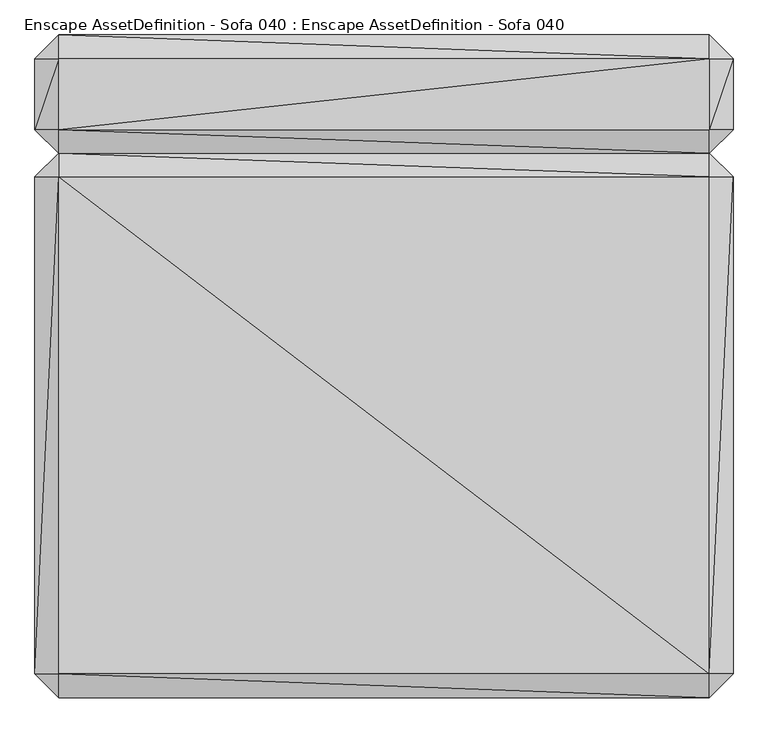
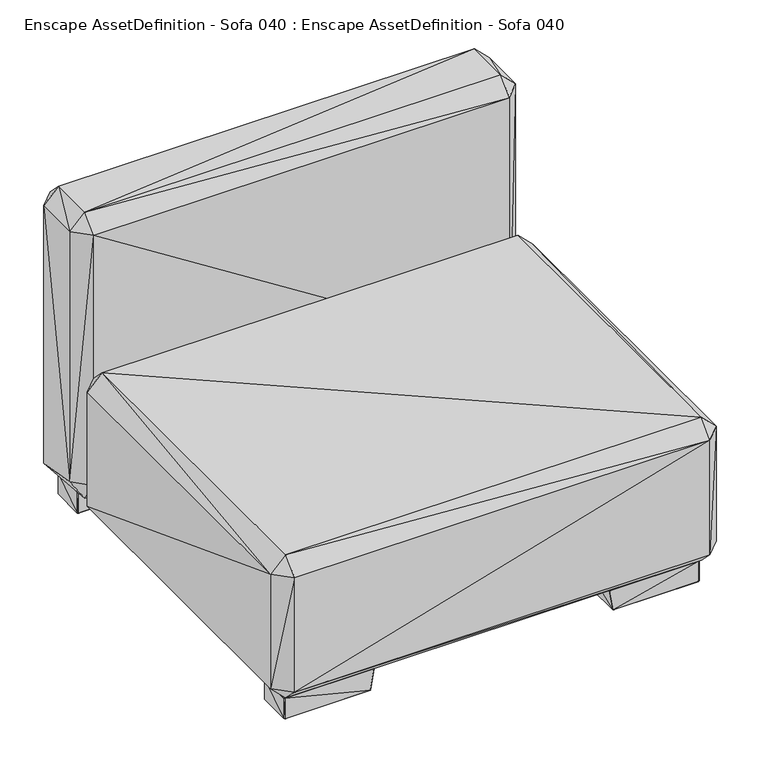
"""IFC4 building model written with IfcOpenShell, lengths in millimetres: geographic element geometry, Enscape AssetDefinition - Sofa 040 : Enscape AssetDefinition - Sofa 040."""

from ifc_helpers import new_model, si_unit, origin, place, context, project, spatial, faceted_brep, source, transform, mapped, element, save


def enscape_assetdefinition_sofa_040_enscape_assetdefinition_908a3bb4(model_context):
    return source(origin(), model_context, "Body", "Brep", [
        faceted_brep([(465.1514246, -440.0926634, 1.697633), (465.1514246, -440.0926634, 49.231356), (273.059171, -440.0926634, 1.697633), (465.1514246, -438.3950426, 50.9289873), (466.8490734, -438.3950426, 49.231356), (265.1371749, -440.0926634, 49.231356), (273.3189049, -438.3950426, 0.0), (271.3420071, -438.3950426, 1.6747148), (465.1514246, -438.3950426, 0.0), (466.8490734, -438.3950426, 1.697633), (466.8490734, -363.9572175, 49.231356), (466.8490734, -363.9572175, 1.697633), (465.1514246, -363.9572175, 0.0), (273.3189049, -363.9572175, 0.0), (271.3420071, -363.9572175, 1.6747148), (465.1514246, -362.2595968, 1.697633), (465.1514246, -362.2595968, 49.231356), (465.1514246, -363.9572175, 50.9289873), (273.059171, -362.2595968, 1.697633), (265.1371749, -362.2595968, 49.231356), (263.4123733, -363.9572175, 49.2542723), (264.830745, -363.9572175, 50.9289873), (264.830745, -438.3950426, 50.9289873), (263.4123733, -438.3950426, 49.2542723)], [[[0, 1, 2]], [[3, 1, 4]], [[1, 3, 5]], [[2, 1, 5]], [[0, 4, 1]], [[6, 2, 7]], [[2, 5, 7]], [[6, 0, 2]], [[0, 8, 9]], [[9, 4, 0]], [[8, 0, 6]], [[9, 10, 4]], [[10, 3, 4]], [[11, 10, 9]], [[11, 9, 12]], [[12, 9, 8]], [[8, 6, 12]], [[13, 6, 14]], [[12, 6, 13]], [[14, 6, 7]], [[15, 11, 12]], [[13, 15, 12]], [[10, 11, 16]], [[16, 11, 15]], [[17, 10, 16]], [[17, 3, 10]], [[15, 18, 16]], [[16, 19, 17]], [[16, 18, 19]], [[18, 15, 13]], [[13, 14, 18]], [[14, 19, 18]], [[20, 19, 14]], [[7, 20, 14]], [[20, 21, 19]], [[17, 19, 21]], [[21, 3, 17]], [[22, 3, 21]], [[5, 3, 22]], [[22, 21, 23]], [[23, 21, 20]], [[23, 20, 7]], [[7, 5, 23]], [[5, 22, 23]]]),
        faceted_brep([(-465.1514246, -438.3950426, 0.0), (-465.1514246, -363.9572175, 0.0), (-273.3189049, -438.3950426, 0.0), (-466.8490734, -363.9572175, 1.697633), (-465.1514246, -362.2595968, 1.697633), (-273.3189049, -363.9572175, 0.0), (-465.1514246, -440.0926634, 1.697633), (-466.8490734, -438.3950426, 1.697633), (-466.8490734, -363.9572175, 49.231356), (-273.059171, -362.2595968, 1.697633), (-465.1514246, -362.2595968, 49.231356), (-271.3420071, -363.9572175, 1.6747148), (-271.3420071, -438.3950426, 1.6747148), (-265.1371749, -362.2595968, 49.231356), (-465.1514246, -363.9572175, 50.9289873), (-466.8490734, -438.3950426, 49.231356), (-465.1514246, -438.3950426, 50.9289873), (-264.830745, -363.9572175, 50.9289873), (-263.4123733, -363.9572175, 49.2542723), (-263.4123733, -438.3950426, 49.2542723), (-264.830745, -438.3950426, 50.9289873), (-465.1514246, -440.0926634, 49.231356), (-265.1371749, -440.0926634, 49.231356), (-273.059171, -440.0926634, 1.697633)], [[[0, 1, 2]], [[1, 3, 4]], [[1, 0, 3]], [[2, 1, 5]], [[4, 5, 1]], [[0, 6, 7]], [[0, 2, 6]], [[3, 0, 7]], [[3, 7, 8]], [[8, 4, 3]], [[9, 5, 4]], [[10, 4, 8]], [[10, 9, 4]], [[9, 11, 5]], [[11, 12, 5]], [[5, 12, 2]], [[13, 9, 10]], [[13, 11, 9]], [[10, 8, 14]], [[10, 14, 13]], [[8, 15, 14]], [[8, 7, 15]], [[16, 17, 14]], [[14, 15, 16]], [[13, 14, 17]], [[13, 17, 18]], [[18, 11, 13]], [[18, 12, 11]], [[19, 12, 18]], [[19, 18, 20]], [[20, 18, 17]], [[20, 17, 16]], [[16, 15, 21]], [[21, 22, 16]], [[16, 22, 20]], [[7, 21, 15]], [[6, 21, 7]], [[6, 23, 21]], [[21, 23, 22]], [[19, 20, 22]], [[23, 12, 22]], [[22, 12, 19]], [[23, 2, 12]], [[6, 2, 23]]]),
        faceted_brep([(-466.8490734, 439.686945, 1.697633), (-466.8490734, 365.2491199, 1.697633), (-466.8490734, 439.686945, 49.231356), (-465.1514246, 363.5514992, 1.697633), (-465.1514246, 365.2491199, 0.0), (-466.8490734, 365.2491199, 49.231356), (-465.1514246, 363.5514992, 49.231356), (-465.1514246, 439.686945, 0.0), (-465.1514246, 441.3845657, 1.697633), (-273.3189049, 365.2491199, 0.0), (-273.059171, 363.5514992, 1.697633), (-465.1514246, 365.2491199, 50.9289873), (-265.1371749, 363.5514992, 49.231356), (-465.1514246, 439.686945, 50.9289873), (-264.830745, 365.2491199, 50.9289873), (-263.4123733, 365.2491199, 49.2542723), (-271.3420071, 365.2491199, 1.6747148), (-263.4123733, 439.686945, 49.2542723), (-271.3420071, 439.686945, 1.6747148), (-273.3189049, 439.686945, 0.0), (-264.830745, 439.686945, 50.9289873), (-265.1371749, 441.3845657, 49.231356), (-273.059171, 441.3845657, 1.697633), (-465.1514246, 441.3845657, 49.231356)], [[[0, 1, 2]], [[3, 1, 4]], [[5, 1, 6]], [[2, 1, 5]], [[0, 4, 1]], [[6, 1, 3]], [[7, 0, 8]], [[7, 4, 0]], [[2, 8, 0]], [[4, 7, 9]], [[9, 3, 4]], [[3, 10, 6]], [[10, 3, 9]], [[11, 5, 6]], [[6, 12, 11]], [[6, 10, 12]], [[2, 5, 13]], [[13, 5, 11]], [[14, 13, 11]], [[11, 12, 14]], [[15, 14, 12]], [[15, 12, 16]], [[16, 12, 10]], [[9, 16, 10]], [[15, 16, 17]], [[18, 16, 19]], [[17, 16, 18]], [[19, 16, 9]], [[15, 17, 14]], [[20, 13, 14]], [[14, 17, 20]], [[17, 21, 20]], [[18, 21, 17]], [[22, 18, 19]], [[22, 21, 18]], [[22, 19, 8]], [[9, 7, 19]], [[8, 19, 7]], [[21, 22, 23]], [[23, 22, 8]], [[20, 21, 13]], [[13, 21, 23]], [[23, 2, 13]], [[23, 8, 2]]]),
        faceted_brep([(466.8490734, 439.686945, 1.697633), (466.8490734, 439.686945, 49.231356), (466.8490734, 365.2491199, 1.697633), (465.1514246, 439.686945, 50.9289873), (465.1514246, 441.3845657, 49.231356), (465.1514246, 365.2491199, 50.9289873), (466.8490734, 365.2491199, 49.231356), (465.1514246, 441.3845657, 1.697633), (465.1514246, 439.686945, 0.0), (273.059171, 441.3845657, 1.697633), (265.1371749, 441.3845657, 49.231356), (273.3189049, 439.686945, 0.0), (465.1514246, 365.2491199, 0.0), (273.3189049, 365.2491199, 0.0), (271.3420071, 439.686945, 1.6747148), (263.4123733, 439.686945, 49.2542723), (264.830745, 439.686945, 50.9289873), (271.3420071, 365.2491199, 1.6747148), (263.4123733, 365.2491199, 49.2542723), (264.830745, 365.2491199, 50.9289873), (265.1371749, 363.5514992, 49.231356), (273.059171, 363.5514992, 1.697633), (465.1514246, 363.5514992, 49.231356), (465.1514246, 363.5514992, 1.697633)], [[[0, 1, 2]], [[3, 1, 4]], [[1, 0, 4]], [[3, 5, 1]], [[2, 1, 6]], [[1, 5, 6]], [[7, 0, 8]], [[0, 2, 8]], [[4, 0, 7]], [[7, 9, 4]], [[4, 9, 10]], [[10, 3, 4]], [[9, 7, 11]], [[11, 7, 8]], [[12, 13, 8]], [[8, 13, 11]], [[8, 2, 12]], [[9, 11, 14]], [[11, 13, 14]], [[9, 14, 10]], [[15, 16, 10]], [[16, 3, 10]], [[10, 14, 15]], [[17, 15, 14]], [[14, 13, 17]], [[18, 15, 17]], [[18, 16, 15]], [[16, 19, 3]], [[19, 16, 18]], [[3, 19, 5]], [[20, 19, 18]], [[20, 5, 19]], [[18, 17, 20]], [[21, 17, 13]], [[20, 17, 21]], [[20, 21, 22]], [[22, 5, 20]], [[22, 6, 5]], [[22, 23, 6]], [[22, 21, 23]], [[21, 13, 23]], [[12, 2, 23]], [[23, 13, 12]], [[6, 23, 2]]]),
        faceted_brep([(469.505042, 339.5435792, 730.0), (469.505042, 441.3667634, 730.0), (-464.1931329, 339.5435792, 730.0), (503.4576815, 441.3667634, 696.0473044), (469.505042, 475.319431, 696.0473044), (-464.1931329, 475.319431, 696.0473044), (-464.1931329, 441.3667634, 730.0), (469.505042, 305.5909116, 696.0473044), (503.4576815, 339.5435792, 696.0473044), (503.4576815, 441.3676058, 85.076027), (503.4576815, 339.5444216, 102.0523538), (469.505042, 305.591754, 102.0523538), (-464.1931329, 305.5909116, 696.0473044), (469.505042, 339.5444216, 51.1233665), (-464.1931329, 305.591754, 102.0523538), (469.505042, 441.3676058, 51.1233665), (469.505042, 475.3202172, 85.076027), (-464.1931329, 441.3676058, 51.1233665), (-464.1931329, 339.5444216, 51.1233665), (-498.1458004, 339.5444216, 102.0523538), (-498.1458004, 441.3676058, 85.076027), (-464.1931329, 475.3202172, 85.076027), (-498.1458004, 441.3667634, 696.0473044), (-498.1458004, 339.5435792, 696.0473044)], [[[0, 1, 2]], [[3, 4, 1]], [[1, 0, 3]], [[4, 5, 1]], [[2, 1, 6]], [[1, 5, 6]], [[0, 7, 8]], [[3, 0, 8]], [[2, 7, 0]], [[8, 9, 3]], [[9, 4, 3]], [[10, 9, 8]], [[7, 11, 8]], [[8, 11, 10]], [[12, 7, 2]], [[12, 11, 7]], [[10, 11, 13]], [[11, 14, 13]], [[14, 11, 12]], [[9, 10, 15]], [[15, 10, 13]], [[15, 16, 9]], [[16, 4, 9]], [[13, 17, 15]], [[17, 16, 15]], [[18, 17, 13]], [[13, 14, 18]], [[18, 14, 19]], [[14, 12, 19]], [[17, 18, 20]], [[20, 18, 19]], [[20, 21, 17]], [[21, 16, 17]], [[16, 21, 4]], [[4, 21, 5]], [[5, 21, 22]], [[22, 21, 20]], [[19, 22, 20]], [[23, 22, 19]], [[19, 12, 23]], [[22, 6, 5]], [[23, 6, 22]], [[23, 12, 2]], [[2, 6, 23]]]),
        faceted_brep([(469.505042, -475.3372333, 84.9504001), (469.505042, -475.3372333, 356.5377293), (-464.1931329, -475.3372333, 84.9504001), (503.4576815, -441.3845657, 356.5377293), (469.505042, -441.3845657, 390.4903687), (-464.1931329, -441.3845657, 390.4903687), (-464.1931329, -475.3372333, 356.5377293), (469.505042, -441.3845657, 50.9977466), (503.4576815, -441.3845657, 84.9504001), (503.4576815, 271.6212842, 356.5377293), (503.4576815, 271.6212842, 84.9504001), (469.505042, 271.6212842, 50.9977466), (-464.1931329, -441.3845657, 50.9977466), (469.505042, 305.5739517, 84.9504001), (-464.1931329, 271.6212842, 50.9977466), (469.505042, 305.5739517, 356.5377293), (469.505042, 271.6212842, 390.4903687), (-464.1931329, 305.5739517, 356.5377293), (-464.1931329, 305.5739517, 84.9504001), (-498.1458004, 271.6212842, 84.9504001), (-498.1458004, 271.6212842, 356.5377293), (-464.1931329, 271.6212842, 390.4903687), (-498.1458004, -441.3845657, 356.5377293), (-498.1458004, -441.3845657, 84.9504001)], [[[0, 1, 2]], [[3, 4, 1]], [[1, 0, 3]], [[4, 5, 1]], [[2, 1, 6]], [[1, 5, 6]], [[0, 7, 8]], [[3, 0, 8]], [[2, 7, 0]], [[8, 9, 3]], [[9, 4, 3]], [[10, 9, 8]], [[7, 11, 8]], [[8, 11, 10]], [[12, 7, 2]], [[12, 11, 7]], [[10, 11, 13]], [[11, 14, 13]], [[14, 11, 12]], [[9, 10, 15]], [[15, 10, 13]], [[15, 16, 9]], [[16, 4, 9]], [[13, 17, 15]], [[17, 16, 15]], [[18, 17, 13]], [[13, 14, 18]], [[18, 14, 19]], [[14, 12, 19]], [[17, 18, 20]], [[20, 18, 19]], [[20, 21, 17]], [[21, 16, 17]], [[16, 21, 4]], [[4, 21, 5]], [[5, 21, 22]], [[22, 21, 20]], [[19, 22, 20]], [[23, 22, 19]], [[19, 12, 23]], [[22, 6, 5]], [[23, 6, 22]], [[23, 12, 2]], [[2, 6, 23]]]),
    ])


if __name__ == "__main__":
    model = new_model("IFC4")
    model_context = context("Model", 3, world=origin())
    ifc_project = project(units=[si_unit("LENGTHUNIT", "METRE", prefix="MILLI")], contexts=[model_context])
    site = spatial("IfcSite", under=ifc_project)
    building = spatial("IfcBuilding", under=site)
    placement = place(None, origin())
    enscape_assetdefinition_sofa_040_enscape_assetdefinition_shape = enscape_assetdefinition_sofa_040_enscape_assetdefinition_908a3bb4(model_context)
    element("IfcGeographicElement", 1, ObjectType="Enscape AssetDefinition - Sofa 040 : Enscape AssetDefinition - Sofa 040", at=placement, inside=building, context=model_context, shape_type="MappedRepresentation", body=[
        mapped(enscape_assetdefinition_sofa_040_enscape_assetdefinition_shape, transform((0.0, 0.0, 0.0), x_axis=(1.0, 0.0, 0.0), y_axis=(0.0, 1.0, 0.0), z_axis=(0.0, 0.0, 1.0))),
    ])
    save(model, "model.ifc")
